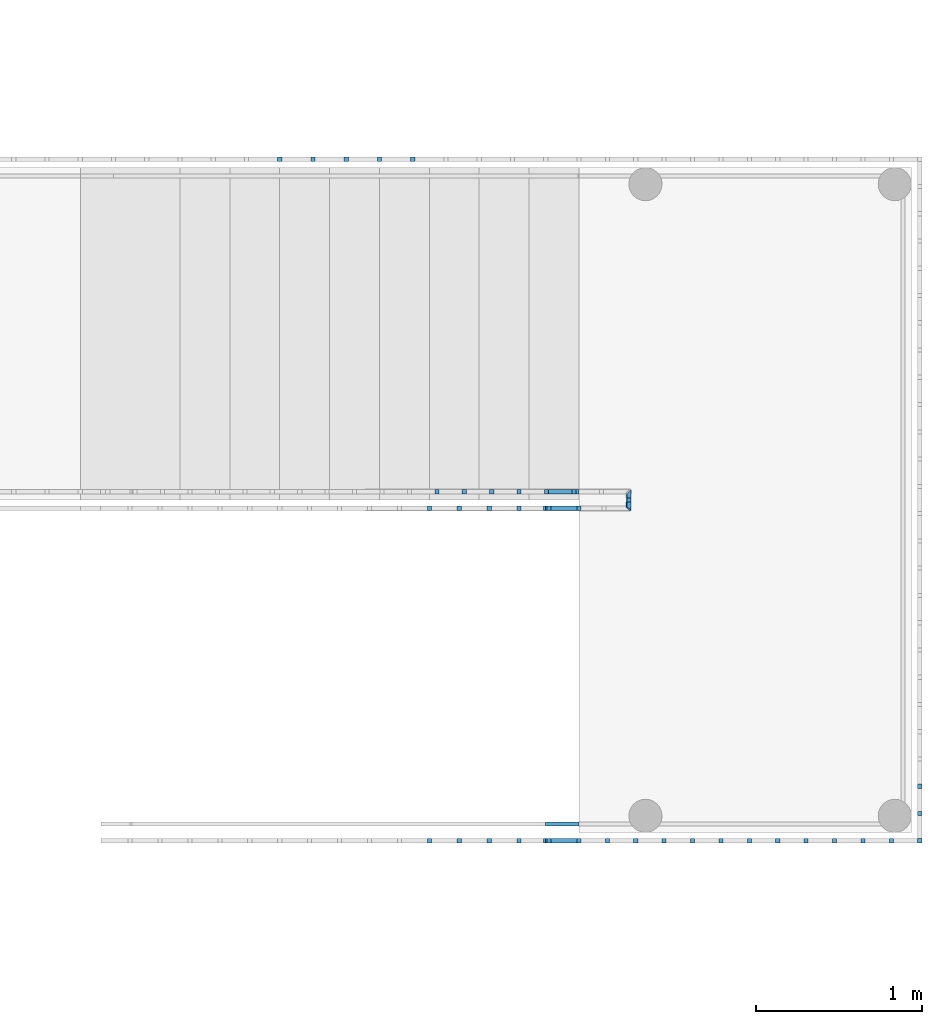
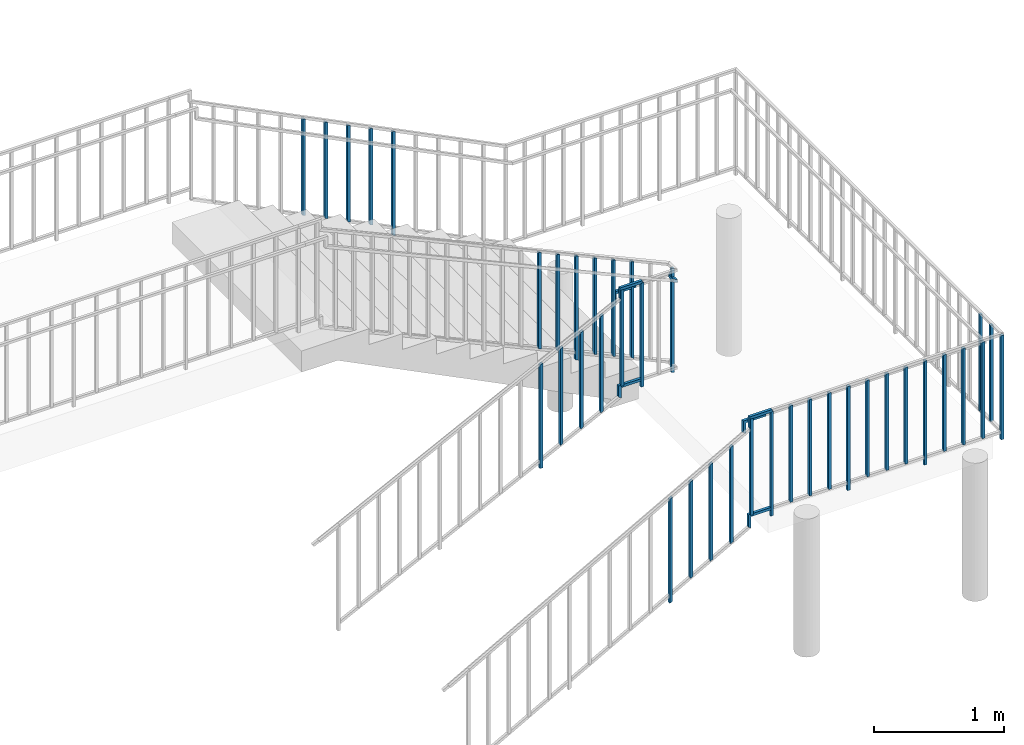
# One storey, part 18 of 19: 45 building element parts, 2 elements without a shape of their own.
"""IFC4 building model written with IfcOpenShell, lengths in millimetres."""

from ifc_helpers import new_model, entity, si_unit, converted_unit, derived_unit, direction, frame, origin_with_axes, place, context, subcontext, project, spatial, triangles, material, element, aggregate, save


model = new_model("IFC4")

# Units and contexts
model_context = context("Model", 3, precision=1e-05, world=origin_with_axes(), true_north=direction((0.0, 1.0)))
body_context = subcontext(model_context, "Body", "Model", "MODEL_VIEW")
ifc_project = project(units=[si_unit("LENGTHUNIT", "METRE", prefix="MILLI"), si_unit("AREAUNIT", "SQUARE_METRE"), si_unit("VOLUMEUNIT", "CUBIC_METRE"), converted_unit("PLANEANGLEUNIT", "DEGREE", entity("IfcLengthMeasure", 0.017453), si_unit("PLANEANGLEUNIT", "RADIAN"), dimensions=[0, 0, 0, 0, 0, 0, 0]), si_unit("SOLIDANGLEUNIT", "STERADIAN"), si_unit("MASSUNIT", "GRAM"), si_unit("TIMEUNIT", "SECOND"), si_unit("THERMODYNAMICTEMPERATUREUNIT", "DEGREE_CELSIUS"), si_unit("LUMINOUSINTENSITYUNIT", "LUMEN"), si_unit("POWERUNIT", "WATT"), derived_unit("THERMALTRANSMITTANCEUNIT", [(si_unit("POWERUNIT", "WATT"), 1), (si_unit("THERMODYNAMICTEMPERATUREUNIT", "KELVIN"), -1), (si_unit("AREAUNIT", "SQUARE_METRE"), -1)])], contexts=[model_context])

# Site, building, storey
site_placement = place(None, origin_with_axes())
site = spatial("IfcSite", under=ifc_project, at=site_placement, Name="Default Site", CompositionType="ELEMENT")
building_placement = place(site_placement, origin_with_axes())
building = spatial("IfcBuilding", under=site, at=building_placement, Name="Default Building", CompositionType="ELEMENT")
storey_placement = place(building_placement, frame((0.0, 0.0, 3000.0), z_axis=(0.0, 0.0, 1.0), x_axis=(1.0, 0.0, 0.0)))
storey = spatial("IfcBuildingStorey", under=building, at=storey_placement, Name="EG - Story", CompositionType="ELEMENT", Elevation=3000.0)

# Railing, building element parts
railing_1_placement = place(storey_placement, origin_with_axes())
railing_1 = element("IfcRailing", 1, at=railing_1_placement, inside=storey, Name="Geländer - 001", PredefinedType="NOTDEFINED")
ifc_material = material(Name="Bekleidung")
building_element_part_1_placement = place(railing_1_placement, frame((84051.391327, -29589.262838, -3000.0), z_axis=(0.0, 0.0, 1.0), x_axis=(1.0, 0.0, 0.0)))
building_element_part_1 = element("IfcBuildingElementPart", 2, at=building_element_part_1_placement, material=ifc_material, Name="Bekleidung", PredefinedType="NOTDEFINED", context=body_context, shape_type="Tessellation", body=[
    triangles([(2712.5, -62.499, 1500.0), (2712.5, -37.499, 1500.0), (2712.5, -37.499, 2482.951), (2712.5, -62.499, 2482.951), (2687.5, -62.499, 1500.0), (2687.5, -37.499, 1500.0), (2687.5, -37.499, 2477.049), (2687.5, -62.499, 2477.049)], [[1, 2, 3], [1, 3, 4], [1, 5, 6], [1, 6, 2], [2, 6, 7], [2, 7, 3], [4, 3, 7], [4, 7, 8], [5, 1, 4], [5, 4, 8], [6, 5, 8], [6, 8, 7]], closed=False),
])
building_element_part_2_placement = place(railing_1_placement, frame((84051.391327, -29589.262838, -3000.0), z_axis=(0.0, 0.0, 1.0), x_axis=(1.0, 0.0, 0.0)))
building_element_part_2 = element("IfcBuildingElementPart", 3, at=building_element_part_2_placement, material=ifc_material, Name="Bekleidung", PredefinedType="NOTDEFINED", context=body_context, shape_type="Tessellation", body=[
    triangles([(2525.0, 37.5, 2375.0), (2700.0, 37.5, 2375.0), (2700.0, 37.5, 2400.0), (2500.0, 37.5, 2400.0), (2500.0, 37.5, 2300.0), (2525.0, 37.5, 2284.549), (2500.0, 62.5, 2300.0), (2525.0, 62.5, 2284.549), (2525.0, 62.5, 2375.0), (2700.0, 62.5, 2375.0), (2700.0, 62.5, 2400.0), (2500.0, 62.5, 2400.0)], [[1, 2, 3], [1, 3, 4], [1, 4, 5], [1, 5, 6], [5, 7, 8], [5, 8, 6], [6, 8, 9], [6, 9, 1], [1, 9, 10], [1, 10, 2], [3, 2, 10], [3, 10, 11], [12, 4, 3], [12, 3, 11], [7, 5, 4], [7, 4, 12], [8, 7, 9], [9, 7, 12], [9, 12, 10], [10, 12, 11]], closed=False),
])
building_element_part_3_placement = place(railing_1_placement, frame((84051.391327, -29589.262838, -3000.0), z_axis=(0.0, 0.0, 1.0), x_axis=(1.0, 0.0, 0.0)))
building_element_part_3 = element("IfcBuildingElementPart", 4, at=building_element_part_3_placement, material=ifc_material, Name="Bekleidung", PredefinedType="NOTDEFINED", context=body_context, shape_type="Tessellation", body=[
    triangles([(2512.5, -62.499, 1557.5), (2700.0, -62.499, 1557.5), (2700.0, -62.499, 1582.5), (2487.5, -62.499, 1582.5), (2487.5, -62.499, 1477.725), (2512.5, -62.499, 1462.275), (2487.5, -37.499, 1477.725), (2512.5, -37.499, 1462.275), (2512.5, -37.499, 1557.5), (2700.0, -37.499, 1557.5), (2700.0, -37.499, 1582.5), (2487.5, -37.499, 1582.5)], [[1, 2, 3], [1, 3, 4], [1, 4, 5], [1, 5, 6], [5, 7, 8], [5, 8, 6], [6, 8, 9], [6, 9, 1], [1, 9, 10], [1, 10, 2], [3, 2, 10], [3, 10, 11], [12, 4, 3], [12, 3, 11], [7, 5, 4], [7, 4, 12], [8, 7, 9], [9, 7, 12], [9, 12, 10], [10, 12, 11]], closed=False),
])
building_element_part_4_placement = place(railing_1_placement, frame((84051.391327, -29589.262838, -3000.0), z_axis=(0.0, 0.0, 1.0), x_axis=(1.0, 0.0, 0.0)))
building_element_part_4 = element("IfcBuildingElementPart", 5, at=building_element_part_4_placement, material=ifc_material, Name="Bekleidung", PredefinedType="NOTDEFINED", context=body_context, shape_type="Tessellation", body=[
    triangles([(2525.0, -62.499, 2475.0), (2700.0, -62.499, 2475.0), (2700.0, -62.499, 2500.0), (2500.0, -62.499, 2500.0), (2500.0, -62.499, 2400.0), (2525.0, -62.499, 2384.549), (2500.0, -37.499, 2400.0), (2525.0, -37.499, 2384.549), (2525.0, -37.499, 2475.0), (2700.0, -37.499, 2475.0), (2700.0, -37.499, 2500.0), (2500.0, -37.499, 2500.0)], [[1, 2, 3], [1, 3, 4], [1, 4, 5], [1, 5, 6], [5, 7, 8], [5, 8, 6], [6, 8, 9], [6, 9, 1], [1, 9, 10], [1, 10, 2], [3, 2, 10], [3, 10, 11], [12, 4, 3], [12, 3, 11], [7, 5, 4], [7, 4, 12], [8, 7, 9], [9, 7, 12], [9, 12, 10], [10, 12, 11]], closed=False),
])
building_element_part_5_placement = place(railing_1_placement, frame((84051.391327, -29589.262838, -3000.0), z_axis=(0.0, 0.0, 1.0), x_axis=(1.0, 0.0, 0.0)))
building_element_part_5 = element("IfcBuildingElementPart", 6, at=building_element_part_5_placement, material=ifc_material, Name="Bekleidung", PredefinedType="NOTDEFINED", context=body_context, shape_type="Tessellation", body=[
    triangles([(3012.5, -12.499, 1497.292), (3012.5, 12.5, 1497.292), (3012.5, 12.5, 2477.292), (3012.5, -12.499, 2477.292), (2987.5, -12.499, 1502.708), (2987.5, 12.5, 1502.708), (2987.5, 12.5, 2482.708), (2987.5, -12.499, 2482.708)], [[1, 2, 3], [1, 3, 4], [1, 5, 6], [1, 6, 2], [2, 6, 7], [2, 7, 3], [4, 3, 7], [4, 7, 8], [5, 1, 4], [5, 4, 8], [6, 5, 8], [6, 8, 7]], closed=False),
])
building_element_part_6_placement = place(railing_1_placement, frame((84051.391327, -29589.262838, -3000.0), z_axis=(0.0, 0.0, 1.0), x_axis=(1.0, 0.0, 0.0)))
building_element_part_6 = element("IfcBuildingElementPart", 7, at=building_element_part_6_placement, material=ifc_material, Name="Bekleidung", PredefinedType="NOTDEFINED", context=body_context, shape_type="Tessellation", body=[
    triangles([(2987.5, 37.5, 2400.0), (2987.5, 37.5, 2375.0), (2982.456, -44.16, 2375.514), (3012.5, 62.5, 2400.0), (3012.5, 62.5, 2375.0), (3007.456, -66.919, 2375.514), (2987.5, -38.619, 2400.0), (3012.5, -61.379, 2400.0)], [[1, 2, 3], [1, 4, 5], [1, 5, 2], [2, 6, 3], [1, 3, 7], [4, 1, 7], [4, 7, 8], [5, 4, 8], [2, 5, 6], [7, 3, 6], [7, 6, 8], [5, 8, 6]], closed=False),
])
building_element_part_7_placement = place(railing_1_placement, frame((84051.391327, -29589.262838, -3000.0), z_axis=(0.0, 0.0, 1.0), x_axis=(1.0, 0.0, 0.0)))
building_element_part_7 = element("IfcBuildingElementPart", 8, at=building_element_part_7_placement, material=ifc_material, Name="Bekleidung", PredefinedType="NOTDEFINED", context=body_context, shape_type="Tessellation", body=[
    triangles([(1812.5, -62.499, 1050.0), (1812.5, -37.499, 1050.0), (1812.5, -37.499, 2036.25), (1812.5, -62.499, 2036.25), (1787.5, -62.499, 1050.0), (1787.5, -37.499, 1050.0), (1787.5, -37.499, 2023.75), (1787.5, -62.499, 2023.75)], [[1, 2, 3], [1, 3, 4], [1, 5, 6], [1, 6, 2], [2, 6, 7], [2, 7, 3], [4, 3, 7], [4, 7, 8], [5, 1, 4], [5, 4, 8], [6, 5, 8], [6, 8, 7]], closed=False),
])
building_element_part_8_placement = place(railing_1_placement, frame((84051.391327, -29589.262838, -3000.0), z_axis=(0.0, 0.0, 1.0), x_axis=(1.0, 0.0, 0.0)))
building_element_part_8 = element("IfcBuildingElementPart", 9, at=building_element_part_8_placement, material=ifc_material, Name="Bekleidung", PredefinedType="NOTDEFINED", context=body_context, shape_type="Tessellation", body=[
    triangles([(1992.5, -62.499, 1216.25), (1992.5, -37.499, 1216.25), (1992.5, -37.499, 2123.75), (1992.5, -62.499, 2123.75), (1967.5, -62.499, 1203.75), (1967.5, -37.499, 1203.75), (1967.5, -37.499, 2111.25), (1967.5, -62.499, 2111.25)], [[1, 2, 3], [1, 3, 4], [1, 5, 6], [1, 6, 2], [2, 6, 7], [2, 7, 3], [4, 3, 7], [4, 7, 8], [5, 1, 4], [5, 4, 8], [6, 5, 8], [6, 8, 7]], closed=False),
])
building_element_part_9_placement = place(railing_1_placement, frame((84051.391327, -29589.262838, -3000.0), z_axis=(0.0, 0.0, 1.0), x_axis=(1.0, 0.0, 0.0)))
building_element_part_9 = element("IfcBuildingElementPart", 10, at=building_element_part_9_placement, material=ifc_material, Name="Bekleidung", PredefinedType="NOTDEFINED", context=body_context, shape_type="Tessellation", body=[
    triangles([(2172.5, -62.499, 1306.25), (2172.5, -37.499, 1306.25), (2172.5, -37.499, 2213.75), (2172.5, -62.499, 2213.75), (2147.5, -62.499, 1293.75), (2147.5, -37.499, 1293.75), (2147.5, -37.499, 2201.25), (2147.5, -62.499, 2201.25)], [[1, 2, 3], [1, 3, 4], [1, 5, 6], [1, 6, 2], [2, 6, 7], [2, 7, 3], [4, 3, 7], [4, 7, 8], [5, 1, 4], [5, 4, 8], [6, 5, 8], [6, 8, 7]], closed=False),
])
building_element_part_10_placement = place(railing_1_placement, frame((84051.391327, -29589.262838, -3000.0), z_axis=(0.0, 0.0, 1.0), x_axis=(1.0, 0.0, 0.0)))
building_element_part_10 = element("IfcBuildingElementPart", 11, at=building_element_part_10_placement, material=ifc_material, Name="Bekleidung", PredefinedType="NOTDEFINED", context=body_context, shape_type="Tessellation", body=[
    triangles([(2352.5, -62.499, 1396.25), (2352.5, -37.499, 1396.25), (2352.5, -37.499, 2303.75), (2352.5, -62.499, 2303.75), (2327.5, -62.499, 1383.75), (2327.5, -37.499, 1383.75), (2327.5, -37.499, 2291.25), (2327.5, -62.499, 2291.25)], [[1, 2, 3], [1, 3, 4], [1, 5, 6], [1, 6, 2], [2, 6, 7], [2, 7, 3], [4, 3, 7], [4, 7, 8], [5, 1, 4], [5, 4, 8], [6, 5, 8], [6, 8, 7]], closed=False),
])
building_element_part_11_placement = place(railing_1_placement, frame((84051.391327, -29589.262838, -3000.0), z_axis=(0.0, 0.0, 1.0), x_axis=(1.0, 0.0, 0.0)))
building_element_part_11 = element("IfcBuildingElementPart", 12, at=building_element_part_11_placement, material=ifc_material, Name="Bekleidung", PredefinedType="NOTDEFINED", context=body_context, shape_type="Tessellation", body=[
    triangles([(2532.5, -62.499, 1570.0), (2532.5, -37.499, 1570.0), (2532.5, -37.499, 2477.5), (2532.5, -62.499, 2477.5), (2507.5, -62.499, 1570.0), (2507.5, -37.499, 1570.0), (2507.5, -37.499, 2477.5), (2507.5, -62.499, 2477.5)], [[1, 2, 3], [1, 3, 4], [1, 5, 6], [1, 6, 2], [2, 6, 7], [2, 7, 3], [4, 3, 7], [4, 7, 8], [5, 1, 4], [5, 4, 8], [6, 5, 8], [6, 8, 7]], closed=False),
])
building_element_part_12_placement = place(railing_1_placement, frame((84051.391327, -29589.262838, -3000.0), z_axis=(0.0, 0.0, 1.0), x_axis=(1.0, 0.0, 0.0)))
building_element_part_12 = element("IfcBuildingElementPart", 13, at=building_element_part_12_placement, material=ifc_material, Name="Bekleidung", PredefinedType="NOTDEFINED", context=body_context, shape_type="Tessellation", body=[
    triangles([(2657.5, 62.5, 1725.682), (2657.5, 37.5, 1725.682), (2657.5, 37.5, 2633.182), (2657.5, 62.5, 2633.182), (2682.5, 62.5, 1714.318), (2682.5, 37.5, 1714.318), (2682.5, 37.5, 2621.818), (2682.5, 62.5, 2621.818)], [[1, 2, 3], [1, 3, 4], [1, 5, 6], [1, 6, 2], [2, 6, 7], [2, 7, 3], [4, 3, 7], [4, 7, 8], [5, 1, 4], [5, 4, 8], [6, 5, 8], [6, 8, 7]], closed=False),
])
building_element_part_13_placement = place(railing_1_placement, frame((84051.391327, -29589.262838, -3000.0), z_axis=(0.0, 0.0, 1.0), x_axis=(1.0, 0.0, 0.0)))
building_element_part_13 = element("IfcBuildingElementPart", 14, at=building_element_part_13_placement, material=ifc_material, Name="Bekleidung", PredefinedType="NOTDEFINED", context=body_context, shape_type="Tessellation", body=[
    triangles([(2492.5, 62.5, 1800.682), (2492.5, 37.5, 1800.682), (2492.5, 37.5, 2708.182), (2492.5, 62.5, 2708.182), (2517.5, 62.5, 1789.318), (2517.5, 37.5, 1789.318), (2517.5, 37.5, 2696.818), (2517.5, 62.5, 2696.818)], [[1, 2, 3], [1, 3, 4], [1, 5, 6], [1, 6, 2], [2, 6, 7], [2, 7, 3], [4, 3, 7], [4, 7, 8], [5, 1, 4], [5, 4, 8], [6, 5, 8], [6, 8, 7]], closed=False),
])
building_element_part_14_placement = place(railing_1_placement, frame((84051.391327, -29589.262838, -3000.0), z_axis=(0.0, 0.0, 1.0), x_axis=(1.0, 0.0, 0.0)))
building_element_part_14 = element("IfcBuildingElementPart", 15, at=building_element_part_14_placement, material=ifc_material, Name="Bekleidung", PredefinedType="NOTDEFINED", context=body_context, shape_type="Tessellation", body=[
    triangles([(2327.5, 62.5, 1875.682), (2327.5, 37.5, 1875.682), (2327.5, 37.5, 2783.182), (2327.5, 62.5, 2783.182), (2352.5, 62.5, 1864.318), (2352.5, 37.5, 1864.318), (2352.5, 37.5, 2771.818), (2352.5, 62.5, 2771.818)], [[1, 2, 3], [1, 3, 4], [1, 5, 6], [1, 6, 2], [2, 6, 7], [2, 7, 3], [4, 3, 7], [4, 7, 8], [5, 1, 4], [5, 4, 8], [6, 5, 8], [6, 8, 7]], closed=False),
])
building_element_part_15_placement = place(railing_1_placement, frame((84051.391327, -29589.262838, -3000.0), z_axis=(0.0, 0.0, 1.0), x_axis=(1.0, 0.0, 0.0)))
building_element_part_15 = element("IfcBuildingElementPart", 16, at=building_element_part_15_placement, material=ifc_material, Name="Bekleidung", PredefinedType="NOTDEFINED", context=body_context, shape_type="Tessellation", body=[
    triangles([(2162.5, 62.5, 1880.682), (2162.5, 37.5, 1880.682), (2162.5, 37.5, 2860.682), (2162.5, 62.5, 2860.682), (2187.5, 62.5, 1869.318), (2187.5, 37.5, 1869.318), (2187.5, 37.5, 2849.318), (2187.5, 62.5, 2849.318)], [[1, 2, 3], [1, 3, 4], [1, 5, 6], [1, 6, 2], [2, 6, 7], [2, 7, 3], [4, 3, 7], [4, 7, 8], [5, 1, 4], [5, 4, 8], [6, 5, 8], [6, 8, 7]], closed=False),
])
building_element_part_16_placement = place(railing_1_placement, frame((84051.391327, -29589.262838, -3000.0), z_axis=(0.0, 0.0, 1.0), x_axis=(1.0, 0.0, 0.0)))
building_element_part_16 = element("IfcBuildingElementPart", 17, at=building_element_part_16_placement, material=ifc_material, Name="Bekleidung", PredefinedType="NOTDEFINED", context=body_context, shape_type="Tessellation", body=[
    triangles([(1997.5, 62.5, 2025.682), (1997.5, 37.5, 2025.682), (1997.5, 37.5, 2933.182), (1997.5, 62.5, 2933.182), (2022.5, 62.5, 2014.318), (2022.5, 37.5, 2014.318), (2022.5, 37.5, 2921.818), (2022.5, 62.5, 2921.818)], [[1, 2, 3], [1, 3, 4], [1, 5, 6], [1, 6, 2], [2, 6, 7], [2, 7, 3], [4, 3, 7], [4, 7, 8], [5, 1, 4], [5, 4, 8], [6, 5, 8], [6, 8, 7]], closed=False),
])
building_element_part_17_placement = place(railing_1_placement, frame((84051.391327, -29589.262838, -3000.0), z_axis=(0.0, 0.0, 1.0), x_axis=(1.0, 0.0, 0.0)))
building_element_part_17 = element("IfcBuildingElementPart", 18, at=building_element_part_17_placement, material=ifc_material, Name="Bekleidung", PredefinedType="NOTDEFINED", context=body_context, shape_type="Tessellation", body=[
    triangles([(1832.5, 62.5, 2100.682), (1832.5, 37.5, 2100.682), (1832.5, 37.5, 3008.182), (1832.5, 62.5, 3008.182), (1857.5, 62.5, 2089.318), (1857.5, 37.5, 2089.318), (1857.5, 37.5, 2996.818), (1857.5, 62.5, 2996.818)], [[1, 2, 3], [1, 3, 4], [1, 5, 6], [1, 6, 2], [2, 6, 7], [2, 7, 3], [4, 3, 7], [4, 7, 8], [5, 1, 4], [5, 4, 8], [6, 5, 8], [6, 8, 7]], closed=False),
])
aggregate(railing_1, [building_element_part_1, building_element_part_2, building_element_part_3, building_element_part_4, building_element_part_5, building_element_part_6, building_element_part_7, building_element_part_8, building_element_part_9, building_element_part_10, building_element_part_11, building_element_part_12, building_element_part_13, building_element_part_14, building_element_part_15, building_element_part_16, building_element_part_17])

railing_2_placement = place(storey_placement, origin_with_axes())
railing_2 = element("IfcRailing", 19, at=railing_2_placement, inside=storey, Name="Geländer - 001", PredefinedType="NOTDEFINED")
building_element_part_18_placement = place(railing_2_placement, frame((84051.391327, -31589.262838, -3000.0), z_axis=(0.0, 0.0, 1.0), x_axis=(1.0, 0.0, 0.0)))
building_element_part_18 = element("IfcBuildingElementPart", 20, at=building_element_part_18_placement, material=ifc_material, Name="Bekleidung", PredefinedType="NOTDEFINED", context=body_context, shape_type="Tessellation", body=[
    triangles([(2712.5, -62.499, 1503.239), (2712.5, -37.499, 1503.239), (2712.5, -37.499, 2483.239), (2712.5, -62.499, 2483.239), (2687.5, -62.499, 1496.761), (2687.5, -37.499, 1496.761), (2687.5, -37.499, 2476.761), (2687.5, -62.499, 2476.761)], [[1, 2, 3], [1, 3, 4], [1, 5, 6], [1, 6, 2], [2, 6, 7], [2, 7, 3], [4, 3, 7], [4, 7, 8], [5, 1, 4], [5, 4, 8], [6, 5, 8], [6, 8, 7]], closed=False),
])
building_element_part_19_placement = place(railing_2_placement, frame((84051.391327, -31589.262838, -3000.0), z_axis=(0.0, 0.0, 1.0), x_axis=(1.0, 0.0, 0.0)))
building_element_part_19 = element("IfcBuildingElementPart", 21, at=building_element_part_19_placement, material=ifc_material, Name="Bekleidung", PredefinedType="NOTDEFINED", context=body_context, shape_type="Tessellation", body=[
    triangles([(2525.0, 37.5, 2375.0), (2700.0, 37.5, 2375.0), (2700.0, 37.5, 2400.0), (2500.0, 37.5, 2400.0), (2500.0, 37.5, 2288.889), (2525.0, 37.5, 2274.179), (2500.0, 62.5, 2288.889), (2525.0, 62.5, 2274.179), (2525.0, 62.5, 2375.0), (2700.0, 62.5, 2375.0), (2700.0, 62.5, 2400.0), (2500.0, 62.5, 2400.0)], [[1, 2, 3], [1, 3, 4], [1, 4, 5], [1, 5, 6], [5, 7, 8], [5, 8, 6], [6, 8, 9], [6, 9, 1], [1, 9, 10], [1, 10, 2], [3, 2, 10], [3, 10, 11], [12, 4, 3], [12, 3, 11], [7, 5, 4], [7, 4, 12], [8, 7, 9], [9, 7, 12], [9, 12, 10], [10, 12, 11]], closed=False),
])
building_element_part_20_placement = place(railing_2_placement, frame((84051.391327, -31589.262838, -3000.0), z_axis=(0.0, 0.0, 1.0), x_axis=(1.0, 0.0, 0.0)))
building_element_part_20 = element("IfcBuildingElementPart", 22, at=building_element_part_20_placement, material=ifc_material, Name="Bekleidung", PredefinedType="NOTDEFINED", context=body_context, shape_type="Tessellation", body=[
    triangles([(2512.5, -62.499, 1557.5), (2700.0, -62.499, 1557.5), (2700.0, -62.499, 1582.5), (2487.5, -62.499, 1582.5), (2487.5, -62.499, 1466.244), (2512.5, -62.499, 1451.534), (2487.5, -37.499, 1466.244), (2512.5, -37.499, 1451.534), (2512.5, -37.499, 1557.5), (2700.0, -37.499, 1557.5), (2700.0, -37.499, 1582.5), (2487.5, -37.499, 1582.5)], [[1, 2, 3], [1, 3, 4], [1, 4, 5], [1, 5, 6], [5, 7, 8], [5, 8, 6], [6, 8, 9], [6, 9, 1], [1, 9, 10], [1, 10, 2], [3, 2, 10], [3, 10, 11], [12, 4, 3], [12, 3, 11], [7, 5, 4], [7, 4, 12], [8, 7, 9], [9, 7, 12], [9, 12, 10], [10, 12, 11]], closed=False),
])
building_element_part_21_placement = place(railing_2_placement, frame((84051.391327, -31589.262838, -3000.0), z_axis=(0.0, 0.0, 1.0), x_axis=(1.0, 0.0, 0.0)))
building_element_part_21 = element("IfcBuildingElementPart", 23, at=building_element_part_21_placement, material=ifc_material, Name="Bekleidung", PredefinedType="NOTDEFINED", context=body_context, shape_type="Tessellation", body=[
    triangles([(2525.0, -62.499, 2475.0), (2700.0, -62.499, 2475.0), (2700.0, -62.499, 2500.0), (2500.0, -62.499, 2500.0), (2500.0, -62.499, 2388.889), (2525.0, -62.499, 2374.179), (2500.0, -37.499, 2388.889), (2525.0, -37.499, 2374.179), (2525.0, -37.499, 2475.0), (2700.0, -37.499, 2475.0), (2700.0, -37.499, 2500.0), (2500.0, -37.499, 2500.0)], [[1, 2, 3], [1, 3, 4], [1, 4, 5], [1, 5, 6], [5, 7, 8], [5, 8, 6], [6, 8, 9], [6, 9, 1], [1, 9, 10], [1, 10, 2], [3, 2, 10], [3, 10, 11], [12, 4, 3], [12, 3, 11], [7, 5, 4], [7, 4, 12], [8, 7, 9], [9, 7, 12], [9, 12, 10], [10, 12, 11]], closed=False),
])
building_element_part_22_placement = place(railing_2_placement, frame((84051.391327, -31589.262838, -3000.0), z_axis=(0.0, 0.0, 1.0), x_axis=(1.0, 0.0, 0.0)))
building_element_part_22 = element("IfcBuildingElementPart", 24, at=building_element_part_22_placement, material=ifc_material, Name="Bekleidung", PredefinedType="NOTDEFINED", context=body_context, shape_type="Tessellation", body=[
    triangles([(4762.5, -62.499, 1500.0), (4762.5, -37.499, 1500.0), (4762.5, -37.499, 2480.0), (4762.5, -62.499, 2480.0), (4737.5, -62.499, 1500.0), (4737.5, -37.499, 1500.0), (4737.5, -37.499, 2480.0), (4737.5, -62.499, 2480.0)], [[1, 2, 3], [1, 3, 4], [1, 5, 6], [1, 6, 2], [2, 6, 7], [2, 7, 3], [4, 3, 7], [4, 7, 8], [5, 1, 4], [5, 4, 8], [6, 5, 8], [6, 8, 7]], closed=False),
])
building_element_part_23_placement = place(railing_2_placement, frame((84051.391327, -31589.262838, -3000.0), z_axis=(0.0, 0.0, 1.0), x_axis=(1.0, 0.0, 0.0)))
building_element_part_23 = element("IfcBuildingElementPart", 25, at=building_element_part_23_placement, material=ifc_material, Name="Bekleidung", PredefinedType="NOTDEFINED", context=body_context, shape_type="Tessellation", body=[
    triangles([(1812.5, -62.499, 1006.944), (1812.5, -37.499, 1006.944), (1812.5, -37.499, 1986.944), (1812.5, -62.499, 1986.944), (1787.5, -62.499, 993.056), (1787.5, -37.499, 993.056), (1787.5, -37.499, 1973.056), (1787.5, -62.499, 1973.056)], [[1, 2, 3], [1, 3, 4], [1, 5, 6], [1, 6, 2], [2, 6, 7], [2, 7, 3], [4, 3, 7], [4, 7, 8], [5, 1, 4], [5, 4, 8], [6, 5, 8], [6, 8, 7]], closed=False),
])
building_element_part_24_placement = place(railing_2_placement, frame((84051.391327, -31589.262838, -3000.0), z_axis=(0.0, 0.0, 1.0), x_axis=(1.0, 0.0, 0.0)))
building_element_part_24 = element("IfcBuildingElementPart", 26, at=building_element_part_24_placement, material=ifc_material, Name="Bekleidung", PredefinedType="NOTDEFINED", context=body_context, shape_type="Tessellation", body=[
    triangles([(1992.5, -62.499, 1176.944), (1992.5, -37.499, 1176.944), (1992.5, -37.499, 2084.444), (1992.5, -62.499, 2084.444), (1967.5, -62.499, 1163.056), (1967.5, -37.499, 1163.056), (1967.5, -37.499, 2070.556), (1967.5, -62.499, 2070.556)], [[1, 2, 3], [1, 3, 4], [1, 5, 6], [1, 6, 2], [2, 6, 7], [2, 7, 3], [4, 3, 7], [4, 7, 8], [5, 1, 4], [5, 4, 8], [6, 5, 8], [6, 8, 7]], closed=False),
])
building_element_part_25_placement = place(railing_2_placement, frame((84051.391327, -31589.262838, -3000.0), z_axis=(0.0, 0.0, 1.0), x_axis=(1.0, 0.0, 0.0)))
building_element_part_25 = element("IfcBuildingElementPart", 27, at=building_element_part_25_placement, material=ifc_material, Name="Bekleidung", PredefinedType="NOTDEFINED", context=body_context, shape_type="Tessellation", body=[
    triangles([(2172.5, -62.499, 1276.944), (2172.5, -37.499, 1276.944), (2172.5, -37.499, 2184.444), (2172.5, -62.499, 2184.444), (2147.5, -62.499, 1263.056), (2147.5, -37.499, 1263.056), (2147.5, -37.499, 2170.556), (2147.5, -62.499, 2170.556)], [[1, 2, 3], [1, 3, 4], [1, 5, 6], [1, 6, 2], [2, 6, 7], [2, 7, 3], [4, 3, 7], [4, 7, 8], [5, 1, 4], [5, 4, 8], [6, 5, 8], [6, 8, 7]], closed=False),
])
building_element_part_26_placement = place(railing_2_placement, frame((84051.391327, -31589.262838, -3000.0), z_axis=(0.0, 0.0, 1.0), x_axis=(1.0, 0.0, 0.0)))
building_element_part_26 = element("IfcBuildingElementPart", 28, at=building_element_part_26_placement, material=ifc_material, Name="Bekleidung", PredefinedType="NOTDEFINED", context=body_context, shape_type="Tessellation", body=[
    triangles([(2352.5, -62.499, 1376.944), (2352.5, -37.499, 1376.944), (2352.5, -37.499, 2284.444), (2352.5, -62.499, 2284.444), (2327.5, -62.499, 1363.056), (2327.5, -37.499, 1363.056), (2327.5, -37.499, 2270.556), (2327.5, -62.499, 2270.556)], [[1, 2, 3], [1, 3, 4], [1, 5, 6], [1, 6, 2], [2, 6, 7], [2, 7, 3], [4, 3, 7], [4, 7, 8], [5, 1, 4], [5, 4, 8], [6, 5, 8], [6, 8, 7]], closed=False),
])
building_element_part_27_placement = place(railing_2_placement, frame((84051.391327, -31589.262838, -3000.0), z_axis=(0.0, 0.0, 1.0), x_axis=(1.0, 0.0, 0.0)))
building_element_part_27 = element("IfcBuildingElementPart", 29, at=building_element_part_27_placement, material=ifc_material, Name="Bekleidung", PredefinedType="NOTDEFINED", context=body_context, shape_type="Tessellation", body=[
    triangles([(2532.5, -62.499, 1570.0), (2532.5, -37.499, 1570.0), (2532.5, -37.499, 2477.5), (2532.5, -62.499, 2477.5), (2507.5, -62.499, 1570.0), (2507.5, -37.499, 1570.0), (2507.5, -37.499, 2477.5), (2507.5, -62.499, 2477.5)], [[1, 2, 3], [1, 3, 4], [1, 5, 6], [1, 6, 2], [2, 6, 7], [2, 7, 3], [4, 3, 7], [4, 7, 8], [5, 1, 4], [5, 4, 8], [6, 5, 8], [6, 8, 7]], closed=False),
])
building_element_part_28_placement = place(railing_2_placement, frame((84051.391327, -31589.262838, -3000.0), z_axis=(0.0, 0.0, 1.0), x_axis=(1.0, 0.0, 0.0)))
building_element_part_28 = element("IfcBuildingElementPart", 30, at=building_element_part_28_placement, material=ifc_material, Name="Bekleidung", PredefinedType="NOTDEFINED", context=body_context, shape_type="Tessellation", body=[
    triangles([(2883.333, -62.499, 1570.0), (2883.333, -37.499, 1570.0), (2883.333, -37.499, 2477.5), (2883.333, -62.499, 2477.5), (2858.333, -62.499, 1570.0), (2858.333, -37.499, 1570.0), (2858.333, -37.499, 2477.5), (2858.333, -62.499, 2477.5)], [[1, 2, 3], [1, 3, 4], [1, 5, 6], [1, 6, 2], [2, 6, 7], [2, 7, 3], [4, 3, 7], [4, 7, 8], [5, 1, 4], [5, 4, 8], [6, 5, 8], [6, 8, 7]], closed=False),
])
building_element_part_29_placement = place(railing_2_placement, frame((84051.391327, -31589.262838, -3000.0), z_axis=(0.0, 0.0, 1.0), x_axis=(1.0, 0.0, 0.0)))
building_element_part_29 = element("IfcBuildingElementPart", 31, at=building_element_part_29_placement, material=ifc_material, Name="Bekleidung", PredefinedType="NOTDEFINED", context=body_context, shape_type="Tessellation", body=[
    triangles([(3054.167, -62.499, 1570.0), (3054.167, -37.499, 1570.0), (3054.167, -37.499, 2477.5), (3054.167, -62.499, 2477.5), (3029.167, -62.499, 1570.0), (3029.167, -37.499, 1570.0), (3029.167, -37.499, 2477.5), (3029.167, -62.499, 2477.5)], [[1, 2, 3], [1, 3, 4], [1, 5, 6], [1, 6, 2], [2, 6, 7], [2, 7, 3], [4, 3, 7], [4, 7, 8], [5, 1, 4], [5, 4, 8], [6, 5, 8], [6, 8, 7]], closed=False),
])
building_element_part_30_placement = place(railing_2_placement, frame((84051.391327, -31589.262838, -3000.0), z_axis=(0.0, 0.0, 1.0), x_axis=(1.0, 0.0, 0.0)))
building_element_part_30 = element("IfcBuildingElementPart", 32, at=building_element_part_30_placement, material=ifc_material, Name="Bekleidung", PredefinedType="NOTDEFINED", context=body_context, shape_type="Tessellation", body=[
    triangles([(3225.0, -62.499, 1570.0), (3225.0, -37.499, 1570.0), (3225.0, -37.499, 2477.5), (3225.0, -62.499, 2477.5), (3200.0, -62.499, 1570.0), (3200.0, -37.499, 1570.0), (3200.0, -37.499, 2477.5), (3200.0, -62.499, 2477.5)], [[1, 2, 3], [1, 3, 4], [1, 5, 6], [1, 6, 2], [2, 6, 7], [2, 7, 3], [4, 3, 7], [4, 7, 8], [5, 1, 4], [5, 4, 8], [6, 5, 8], [6, 8, 7]], closed=False),
])
building_element_part_31_placement = place(railing_2_placement, frame((84051.391327, -31589.262838, -3000.0), z_axis=(0.0, 0.0, 1.0), x_axis=(1.0, 0.0, 0.0)))
building_element_part_31 = element("IfcBuildingElementPart", 33, at=building_element_part_31_placement, material=ifc_material, Name="Bekleidung", PredefinedType="NOTDEFINED", context=body_context, shape_type="Tessellation", body=[
    triangles([(3395.833, -62.499, 1500.0), (3395.833, -37.499, 1500.0), (3395.833, -37.499, 2480.0), (3395.833, -62.499, 2480.0), (3370.833, -62.499, 1500.0), (3370.833, -37.499, 1500.0), (3370.833, -37.499, 2480.0), (3370.833, -62.499, 2480.0)], [[1, 2, 3], [1, 3, 4], [1, 5, 6], [1, 6, 2], [2, 6, 7], [2, 7, 3], [4, 3, 7], [4, 7, 8], [5, 1, 4], [5, 4, 8], [6, 5, 8], [6, 8, 7]], closed=False),
])
building_element_part_32_placement = place(railing_2_placement, frame((84051.391327, -31589.262838, -3000.0), z_axis=(0.0, 0.0, 1.0), x_axis=(1.0, 0.0, 0.0)))
building_element_part_32 = element("IfcBuildingElementPart", 34, at=building_element_part_32_placement, material=ifc_material, Name="Bekleidung", PredefinedType="NOTDEFINED", context=body_context, shape_type="Tessellation", body=[
    triangles([(3566.667, -62.499, 1570.0), (3566.667, -37.499, 1570.0), (3566.667, -37.499, 2477.5), (3566.667, -62.499, 2477.5), (3541.667, -62.499, 1570.0), (3541.667, -37.499, 1570.0), (3541.667, -37.499, 2477.5), (3541.667, -62.499, 2477.5)], [[1, 2, 3], [1, 3, 4], [1, 5, 6], [1, 6, 2], [2, 6, 7], [2, 7, 3], [4, 3, 7], [4, 7, 8], [5, 1, 4], [5, 4, 8], [6, 5, 8], [6, 8, 7]], closed=False),
])
building_element_part_33_placement = place(railing_2_placement, frame((84051.391327, -31589.262838, -3000.0), z_axis=(0.0, 0.0, 1.0), x_axis=(1.0, 0.0, 0.0)))
building_element_part_33 = element("IfcBuildingElementPart", 35, at=building_element_part_33_placement, material=ifc_material, Name="Bekleidung", PredefinedType="NOTDEFINED", context=body_context, shape_type="Tessellation", body=[
    triangles([(3737.5, -62.499, 1570.0), (3737.5, -37.499, 1570.0), (3737.5, -37.499, 2477.5), (3737.5, -62.499, 2477.5), (3712.5, -62.499, 1570.0), (3712.5, -37.499, 1570.0), (3712.5, -37.499, 2477.5), (3712.5, -62.499, 2477.5)], [[1, 2, 3], [1, 3, 4], [1, 5, 6], [1, 6, 2], [2, 6, 7], [2, 7, 3], [4, 3, 7], [4, 7, 8], [5, 1, 4], [5, 4, 8], [6, 5, 8], [6, 8, 7]], closed=False),
])
building_element_part_34_placement = place(railing_2_placement, frame((84051.391327, -31589.262838, -3000.0), z_axis=(0.0, 0.0, 1.0), x_axis=(1.0, 0.0, 0.0)))
building_element_part_34 = element("IfcBuildingElementPart", 36, at=building_element_part_34_placement, material=ifc_material, Name="Bekleidung", PredefinedType="NOTDEFINED", context=body_context, shape_type="Tessellation", body=[
    triangles([(3908.333, -62.499, 1570.0), (3908.333, -37.499, 1570.0), (3908.333, -37.499, 2477.5), (3908.333, -62.499, 2477.5), (3883.333, -62.499, 1570.0), (3883.333, -37.499, 1570.0), (3883.333, -37.499, 2477.5), (3883.333, -62.499, 2477.5)], [[1, 2, 3], [1, 3, 4], [1, 5, 6], [1, 6, 2], [2, 6, 7], [2, 7, 3], [4, 3, 7], [4, 7, 8], [5, 1, 4], [5, 4, 8], [6, 5, 8], [6, 8, 7]], closed=False),
])
building_element_part_35_placement = place(railing_2_placement, frame((84051.391327, -31589.262838, -3000.0), z_axis=(0.0, 0.0, 1.0), x_axis=(1.0, 0.0, 0.0)))
building_element_part_35 = element("IfcBuildingElementPart", 37, at=building_element_part_35_placement, material=ifc_material, Name="Bekleidung", PredefinedType="NOTDEFINED", context=body_context, shape_type="Tessellation", body=[
    triangles([(4079.167, -62.499, 1500.0), (4079.167, -37.499, 1500.0), (4079.167, -37.499, 2480.0), (4079.167, -62.499, 2480.0), (4054.167, -62.499, 1500.0), (4054.167, -37.499, 1500.0), (4054.167, -37.499, 2480.0), (4054.167, -62.499, 2480.0)], [[1, 2, 3], [1, 3, 4], [1, 5, 6], [1, 6, 2], [2, 6, 7], [2, 7, 3], [4, 3, 7], [4, 7, 8], [5, 1, 4], [5, 4, 8], [6, 5, 8], [6, 8, 7]], closed=False),
])
building_element_part_36_placement = place(railing_2_placement, frame((84051.391327, -31589.262838, -3000.0), z_axis=(0.0, 0.0, 1.0), x_axis=(1.0, 0.0, 0.0)))
building_element_part_36 = element("IfcBuildingElementPart", 38, at=building_element_part_36_placement, material=ifc_material, Name="Bekleidung", PredefinedType="NOTDEFINED", context=body_context, shape_type="Tessellation", body=[
    triangles([(4250.0, -62.499, 1570.0), (4250.0, -37.499, 1570.0), (4250.0, -37.499, 2477.5), (4250.0, -62.499, 2477.5), (4225.0, -62.499, 1570.0), (4225.0, -37.499, 1570.0), (4225.0, -37.499, 2477.5), (4225.0, -62.499, 2477.5)], [[1, 2, 3], [1, 3, 4], [1, 5, 6], [1, 6, 2], [2, 6, 7], [2, 7, 3], [4, 3, 7], [4, 7, 8], [5, 1, 4], [5, 4, 8], [6, 5, 8], [6, 8, 7]], closed=False),
])
building_element_part_37_placement = place(railing_2_placement, frame((84051.391327, -31589.262838, -3000.0), z_axis=(0.0, 0.0, 1.0), x_axis=(1.0, 0.0, 0.0)))
building_element_part_37 = element("IfcBuildingElementPart", 39, at=building_element_part_37_placement, material=ifc_material, Name="Bekleidung", PredefinedType="NOTDEFINED", context=body_context, shape_type="Tessellation", body=[
    triangles([(4420.833, -62.499, 1570.0), (4420.833, -37.499, 1570.0), (4420.833, -37.499, 2477.5), (4420.833, -62.499, 2477.5), (4395.833, -62.499, 1570.0), (4395.833, -37.499, 1570.0), (4395.833, -37.499, 2477.5), (4395.833, -62.499, 2477.5)], [[1, 2, 3], [1, 3, 4], [1, 5, 6], [1, 6, 2], [2, 6, 7], [2, 7, 3], [4, 3, 7], [4, 7, 8], [5, 1, 4], [5, 4, 8], [6, 5, 8], [6, 8, 7]], closed=False),
])
building_element_part_38_placement = place(railing_2_placement, frame((84051.391327, -31589.262838, -3000.0), z_axis=(0.0, 0.0, 1.0), x_axis=(1.0, 0.0, 0.0)))
building_element_part_38 = element("IfcBuildingElementPart", 40, at=building_element_part_38_placement, material=ifc_material, Name="Bekleidung", PredefinedType="NOTDEFINED", context=body_context, shape_type="Tessellation", body=[
    triangles([(4591.667, -62.499, 1570.0), (4591.667, -37.499, 1570.0), (4591.667, -37.499, 2477.5), (4591.667, -62.499, 2477.5), (4566.667, -62.499, 1570.0), (4566.667, -37.499, 1570.0), (4566.667, -37.499, 2477.5), (4566.667, -62.499, 2477.5)], [[1, 2, 3], [1, 3, 4], [1, 5, 6], [1, 6, 2], [2, 6, 7], [2, 7, 3], [4, 3, 7], [4, 7, 8], [5, 1, 4], [5, 4, 8], [6, 5, 8], [6, 8, 7]], closed=False),
])
building_element_part_39_placement = place(railing_2_placement, frame((84051.391327, -31589.262838, -3000.0), z_axis=(0.0, 0.0, 1.0), x_axis=(1.0, 0.0, 0.0)))
building_element_part_39 = element("IfcBuildingElementPart", 41, at=building_element_part_39_placement, material=ifc_material, Name="Bekleidung", PredefinedType="NOTDEFINED", context=body_context, shape_type="Tessellation", body=[
    triangles([(4762.5, 126.5, 1570.0), (4737.5, 126.5, 1570.0), (4737.5, 126.5, 2477.5), (4762.5, 126.5, 2477.5), (4762.5, 101.5, 1570.0), (4737.5, 101.5, 1570.0), (4737.5, 101.5, 2477.5), (4762.5, 101.5, 2477.5)], [[1, 2, 3], [1, 3, 4], [1, 5, 6], [1, 6, 2], [2, 6, 7], [2, 7, 3], [4, 3, 7], [4, 7, 8], [5, 1, 4], [5, 4, 8], [6, 5, 8], [6, 8, 7]], closed=False),
])
building_element_part_40_placement = place(railing_2_placement, frame((84051.391327, -31589.262838, -3000.0), z_axis=(0.0, 0.0, 1.0), x_axis=(1.0, 0.0, 0.0)))
building_element_part_40 = element("IfcBuildingElementPart", 42, at=building_element_part_40_placement, material=ifc_material, Name="Bekleidung", PredefinedType="NOTDEFINED", context=body_context, shape_type="Tessellation", body=[
    triangles([(4762.5, 290.5, 1570.0), (4737.5, 290.5, 1570.0), (4737.5, 290.5, 2477.5), (4762.5, 290.5, 2477.5), (4762.5, 265.5, 1570.0), (4737.5, 265.5, 1570.0), (4737.5, 265.5, 2477.5), (4762.5, 265.5, 2477.5)], [[1, 2, 3], [1, 3, 4], [1, 5, 6], [1, 6, 2], [2, 6, 7], [2, 7, 3], [4, 3, 7], [4, 7, 8], [5, 1, 4], [5, 4, 8], [6, 5, 8], [6, 8, 7]], closed=False),
])
building_element_part_41_placement = place(railing_2_placement, frame((84051.391327, -31589.262838, -3000.0), z_axis=(0.0, 0.0, 1.0), x_axis=(1.0, 0.0, 0.0)))
building_element_part_41 = element("IfcBuildingElementPart", 43, at=building_element_part_41_placement, material=ifc_material, Name="Bekleidung", PredefinedType="NOTDEFINED", context=body_context, shape_type="Tessellation", body=[
    triangles([(1687.5, 4062.5, 2006.25), (1687.5, 4037.5, 2006.25), (1687.5, 4037.5, 2986.25), (1687.5, 4062.5, 2986.25), (1712.5, 4062.5, 1993.75), (1712.5, 4037.5, 1993.75), (1712.5, 4037.5, 2973.75), (1712.5, 4062.5, 2973.75)], [[1, 2, 3], [1, 3, 4], [1, 5, 6], [1, 6, 2], [2, 6, 7], [2, 7, 3], [4, 3, 7], [4, 7, 8], [5, 1, 4], [5, 4, 8], [6, 5, 8], [6, 8, 7]], closed=False),
])
building_element_part_42_placement = place(railing_2_placement, frame((84051.391327, -31589.262838, -3000.0), z_axis=(0.0, 0.0, 1.0), x_axis=(1.0, 0.0, 0.0)))
building_element_part_42 = element("IfcBuildingElementPart", 44, at=building_element_part_42_placement, material=ifc_material, Name="Bekleidung", PredefinedType="NOTDEFINED", context=body_context, shape_type="Tessellation", body=[
    triangles([(1487.5, 4062.5, 2176.25), (1487.5, 4037.5, 2176.25), (1487.5, 4037.5, 3083.75), (1487.5, 4062.5, 3083.75), (1512.5, 4062.5, 2163.75), (1512.5, 4037.5, 2163.75), (1512.5, 4037.5, 3071.25), (1512.5, 4062.5, 3071.25)], [[1, 2, 3], [1, 3, 4], [1, 5, 6], [1, 6, 2], [2, 6, 7], [2, 7, 3], [4, 3, 7], [4, 7, 8], [5, 1, 4], [5, 4, 8], [6, 5, 8], [6, 8, 7]], closed=False),
])
building_element_part_43_placement = place(railing_2_placement, frame((84051.391327, -31589.262838, -3000.0), z_axis=(0.0, 0.0, 1.0), x_axis=(1.0, 0.0, 0.0)))
building_element_part_43 = element("IfcBuildingElementPart", 45, at=building_element_part_43_placement, material=ifc_material, Name="Bekleidung", PredefinedType="NOTDEFINED", context=body_context, shape_type="Tessellation", body=[
    triangles([(1287.5, 4062.5, 2276.25), (1287.5, 4037.5, 2276.25), (1287.5, 4037.5, 3183.75), (1287.5, 4062.5, 3183.75), (1312.5, 4062.5, 2263.75), (1312.5, 4037.5, 2263.75), (1312.5, 4037.5, 3171.25), (1312.5, 4062.5, 3171.25)], [[1, 2, 3], [1, 3, 4], [1, 5, 6], [1, 6, 2], [2, 6, 7], [2, 7, 3], [4, 3, 7], [4, 7, 8], [5, 1, 4], [5, 4, 8], [6, 5, 8], [6, 8, 7]], closed=False),
])
building_element_part_44_placement = place(railing_2_placement, frame((84051.391327, -31589.262838, -3000.0), z_axis=(0.0, 0.0, 1.0), x_axis=(1.0, 0.0, 0.0)))
building_element_part_44 = element("IfcBuildingElementPart", 46, at=building_element_part_44_placement, material=ifc_material, Name="Bekleidung", PredefinedType="NOTDEFINED", context=body_context, shape_type="Tessellation", body=[
    triangles([(1087.5, 4062.5, 2376.25), (1087.5, 4037.5, 2376.25), (1087.5, 4037.5, 3283.75), (1087.5, 4062.5, 3283.75), (1112.5, 4062.5, 2363.75), (1112.5, 4037.5, 2363.75), (1112.5, 4037.5, 3271.25), (1112.5, 4062.5, 3271.25)], [[1, 2, 3], [1, 3, 4], [1, 5, 6], [1, 6, 2], [2, 6, 7], [2, 7, 3], [4, 3, 7], [4, 7, 8], [5, 1, 4], [5, 4, 8], [6, 5, 8], [6, 8, 7]], closed=False),
])
building_element_part_45_placement = place(railing_2_placement, frame((84051.391327, -31589.262838, -3000.0), z_axis=(0.0, 0.0, 1.0), x_axis=(1.0, 0.0, 0.0)))
building_element_part_45 = element("IfcBuildingElementPart", 47, at=building_element_part_45_placement, material=ifc_material, Name="Bekleidung", PredefinedType="NOTDEFINED", context=body_context, shape_type="Tessellation", body=[
    triangles([(887.5, 4062.5, 2476.25), (887.5, 4037.5, 2476.25), (887.5, 4037.5, 3383.75), (887.5, 4062.5, 3383.75), (912.5, 4062.5, 2463.75), (912.5, 4037.5, 2463.75), (912.5, 4037.5, 3371.25), (912.5, 4062.5, 3371.25)], [[1, 2, 3], [1, 3, 4], [1, 5, 6], [1, 6, 2], [2, 6, 7], [2, 7, 3], [4, 3, 7], [4, 7, 8], [5, 1, 4], [5, 4, 8], [6, 5, 8], [6, 8, 7]], closed=False),
])
aggregate(railing_2, [building_element_part_18, building_element_part_19, building_element_part_20, building_element_part_21, building_element_part_22, building_element_part_23, building_element_part_24, building_element_part_25, building_element_part_26, building_element_part_27, building_element_part_28, building_element_part_29, building_element_part_30, building_element_part_31, building_element_part_32, building_element_part_33, building_element_part_34, building_element_part_35, building_element_part_36, building_element_part_37, building_element_part_38, building_element_part_39, building_element_part_40, building_element_part_41, building_element_part_42, building_element_part_43, building_element_part_44, building_element_part_45])

save(model, "model.ifc")
